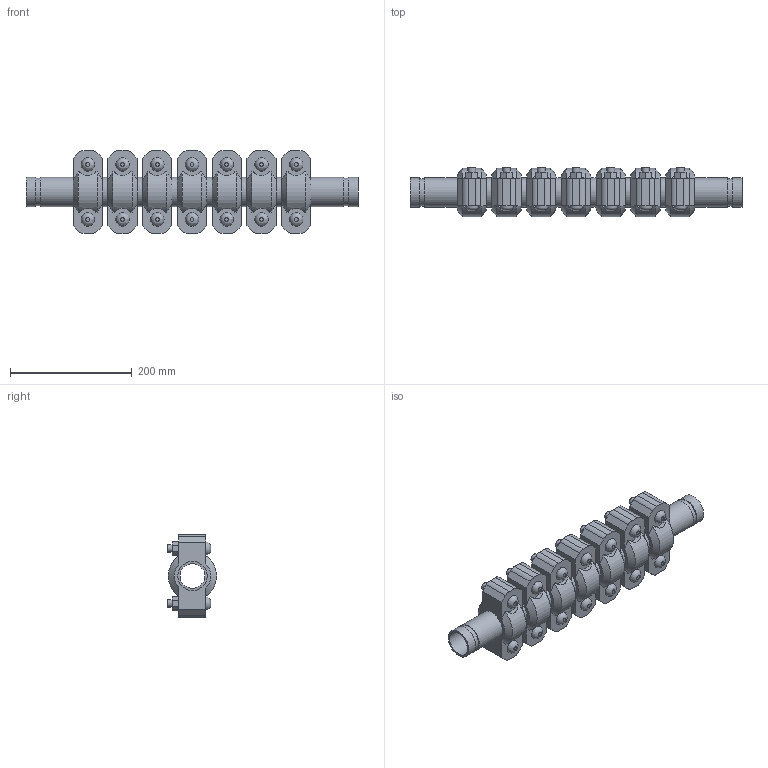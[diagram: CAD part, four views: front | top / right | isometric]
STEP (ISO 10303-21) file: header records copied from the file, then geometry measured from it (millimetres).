
FILE_DESCRIPTION(/* description */ ('VIC EXPANSION JOINT 7 COUPLINGS COMPRESSED STYLE 155 (OGS)','CAx-IF Rec.Pracs.---Representation and Presentation of Product Manufacturing Information (PMI)---4.0---2014-10-13'),/* implementation_level */ '2;1');
FILE_NAME(/* name */ 'C:\Users\kkamble\AppData\Roaming\Autodesk\ApplicationPlugins\Victaulic.Temp\A262\Victaulic_IPS_Expansion Joint_Compressed_7 Couplings_Style 155 (OGS)_1.5 (40).stp',/* time_stamp */ '2021-06-27T00:33:35+02:00',/* author */ ('kkamble'),/* organization */ ('Victaulic'),/* preprocessor_version */ 'ST-DEVELOPER v17.2',/* originating_system */ 'Autodesk Inventor 2019',/* authorisation */ '');
FILE_SCHEMA (('AP242_MANAGED_MODEL_BASED_3D_ENGINEERING_MIM_LF { 1 0 10303 442 1 1 4 }'));
Length unit declared in the file: inch
Products named in the file (4): 155-01.5; Nipple-01.5; Nipple-01.5_1; 077-01.5
Assembly tree (15 placements, depth 2):
  155-01.5
    Nipple-01.5  x2
    Nipple-01.5_1  x6
    077-01.5  x7
Bounding box: 546.1 x 81.03 x 136.65 mm (x, y, z)
Volume: 2094500.1 mm3; surface area: 480329.7 mm2
Topology: 15 solids, 29 shells, 495 faces, 1213 edges, 850 vertices
Faces by surface type: plane 286, cylinder 167, cone 28, bspline 14
Full cylindrical faces by diameter (mm): 12.7 x28, 14.605 x14, 40.894 x8, 45.085 x16, 48.26 x31
Entity records: 2955 total; most frequent: CARTESIAN_POINT 593, DIRECTION 475, ORIENTED_EDGE 398, EDGE_CURVE 199, AXIS2_PLACEMENT_3D 190, VERTEX_POINT 142, EDGE_LOOP 105, LINE 95
